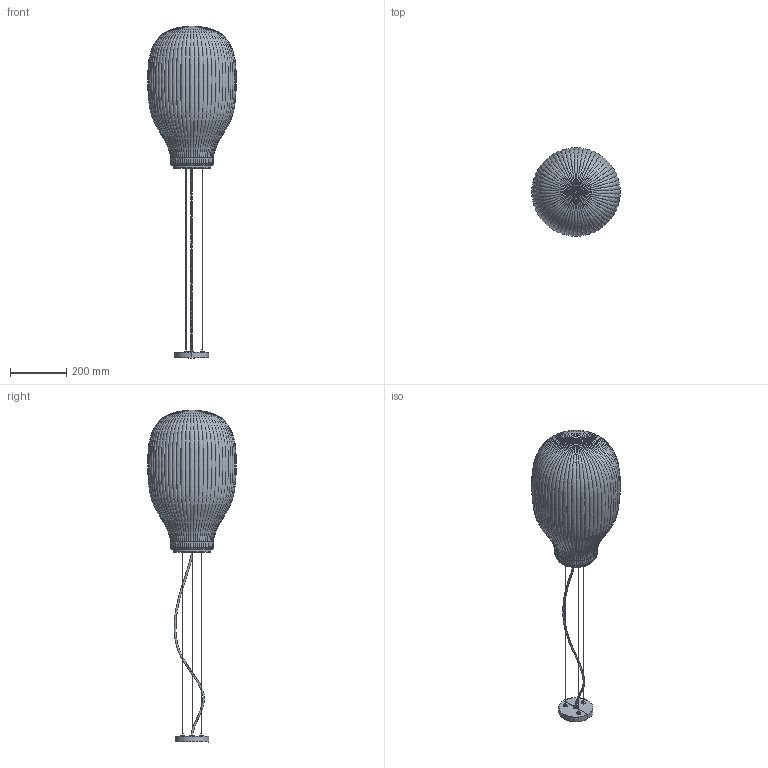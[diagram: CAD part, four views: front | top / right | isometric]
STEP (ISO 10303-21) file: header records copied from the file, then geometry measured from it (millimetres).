
FILE_DESCRIPTION(/* description */ (''),/* implementation_level */ '2;1');
FILE_NAME(/* name */ '28300.step',/* time_stamp */ '2024-06-13T11:13:02+02:00',/* author */ ('RenataManzini'),/* organization */ (''),/* preprocessor_version */ 'ST-DEVELOPER v20',/* originating_system */ 'AutoCAD Mechanical',/* authorisation */ '');
FILE_SCHEMA (('AUTOMOTIVE_DESIGN { 1 0 10303 214 3 1 1 }'));
Products named in the file (3): Product; soporte_isabelle - Lamp Holder-703298-_3D_; ISABELLE_310_dwg-708223-_3D_
Assembly tree (2 placements, depth 2):
  Product
    soporte_isabelle - Lamp Holder-703298-_3D_
    ISABELLE_310_dwg-708223-_3D_
Bounding box: 313.95 x 313.95 x 1175.79 mm (x, y, z)
Volume: 158588.9 mm3; surface area: 1063586.7 mm2
Topology: 8 solids, 11 shells, 537 faces, 1414 edges, 690 vertices
Faces by surface type: bspline 372, cylinder 111, plane 48, torus 6
Entity records: 62633 total; most frequent: CARTESIAN_POINT 52992, ORIENTED_EDGE 2340, EDGE_CURVE 1290, DIRECTION 1069, B_SPLINE_CURVE_WITH_KNOTS 801, VERTEX_POINT 690, EDGE_LOOP 584, FACE_OUTER_BOUND 537
